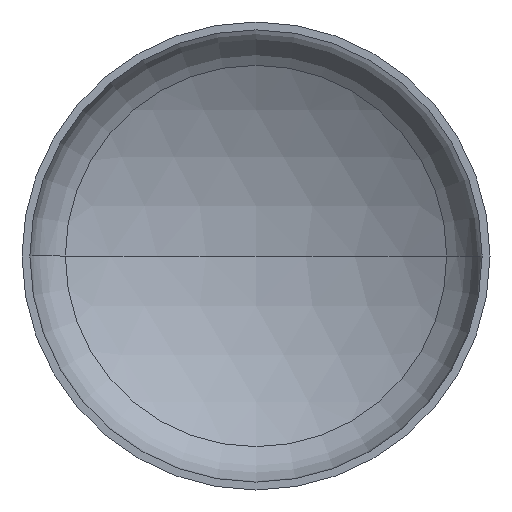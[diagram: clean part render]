
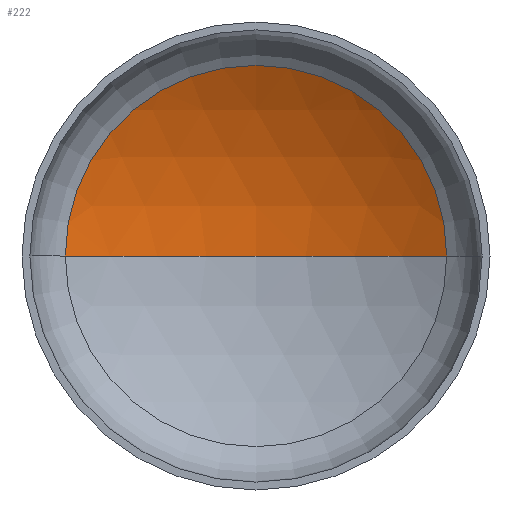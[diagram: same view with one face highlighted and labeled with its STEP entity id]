
A CAD part, front view. The second image highlights one B-rep face of the part: STEP entity #222.
In plain terms, the highlighted spherical face has radius 5600 mm.
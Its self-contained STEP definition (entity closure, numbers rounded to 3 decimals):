
#7 = ORIENTED_EDGE ( 'NONE', *, *, #109, .T. ) ;
#8 = VERTEX_POINT ( 'NONE', #257 ) ;
#11 = CARTESIAN_POINT ( 'NONE',  ( 0., -3814.884, 0. ) ) ;
#34 = AXIS2_PLACEMENT_3D ( 'NONE', #11, #380, #50 ) ;
#50 = DIRECTION ( 'NONE',  ( -1., 0., 0. ) ) ;
#52 = VERTEX_POINT ( 'NONE', #221 ) ;
#53 = EDGE_LOOP ( 'NONE', ( #56, #7, #142 ) ) ;
#56 = ORIENTED_EDGE ( 'NONE', *, *, #111, .F. ) ;
#73 = AXIS2_PLACEMENT_3D ( 'NONE', #170, #172, #174 ) ;
#76 = AXIS2_PLACEMENT_3D ( 'NONE', #194, #196, #190 ) ;
#79 = AXIS2_PLACEMENT_3D ( 'NONE', #179, #273, #270 ) ;
#97 = SPHERICAL_SURFACE ( 'NONE', #34, 5600. ) ;
#107 = EDGE_CURVE ( 'NONE', #52, #8, #205, .T. ) ;
#109 = EDGE_CURVE ( 'NONE', #231, #52, #135, .T. ) ;
#111 = EDGE_CURVE ( 'NONE', #231, #8, #391, .T. ) ;
#135 = CIRCLE ( 'NONE', #76, 5600. ) ;
#142 = ORIENTED_EDGE ( 'NONE', *, *, #107, .T. ) ;
#159 = CARTESIAN_POINT ( 'NONE',  ( 0., 1785.116, 0. ) ) ;
#170 = CARTESIAN_POINT ( 'NONE',  ( 0., -3814.884, 0. ) ) ;
#172 = DIRECTION ( 'NONE',  ( 0., 0., 1. ) ) ;
#174 = DIRECTION ( 'NONE',  ( 1., 0., 0. ) ) ;
#179 = CARTESIAN_POINT ( 'NONE',  ( 0., 1004.441, 0. ) ) ;
#190 = DIRECTION ( 'NONE',  ( -1., 0., 0. ) ) ;
#194 = CARTESIAN_POINT ( 'NONE',  ( 0., -3814.884, 0. ) ) ;
#196 = DIRECTION ( 'NONE',  ( 0., 0., -1. ) ) ;
#205 = CIRCLE ( 'NONE', #79, 2852.035 ) ;
#221 = CARTESIAN_POINT ( 'NONE',  ( 2852.035, 1004.441, 0. ) ) ;
#222 = ADVANCED_FACE ( 'NONE', ( #242 ), #97, .F. ) ;
#231 = VERTEX_POINT ( 'NONE', #159 ) ;
#242 = FACE_OUTER_BOUND ( 'NONE', #53, .T. ) ;
#257 = CARTESIAN_POINT ( 'NONE',  ( -2852.035, 1004.441, 0. ) ) ;
#270 = DIRECTION ( 'NONE',  ( 1., 0., 0. ) ) ;
#273 = DIRECTION ( 'NONE',  ( 0., -1., 0. ) ) ;
#380 = DIRECTION ( 'NONE',  ( 0., 0., -1. ) ) ;
#391 = CIRCLE ( 'NONE', #73, 5600. ) ;
